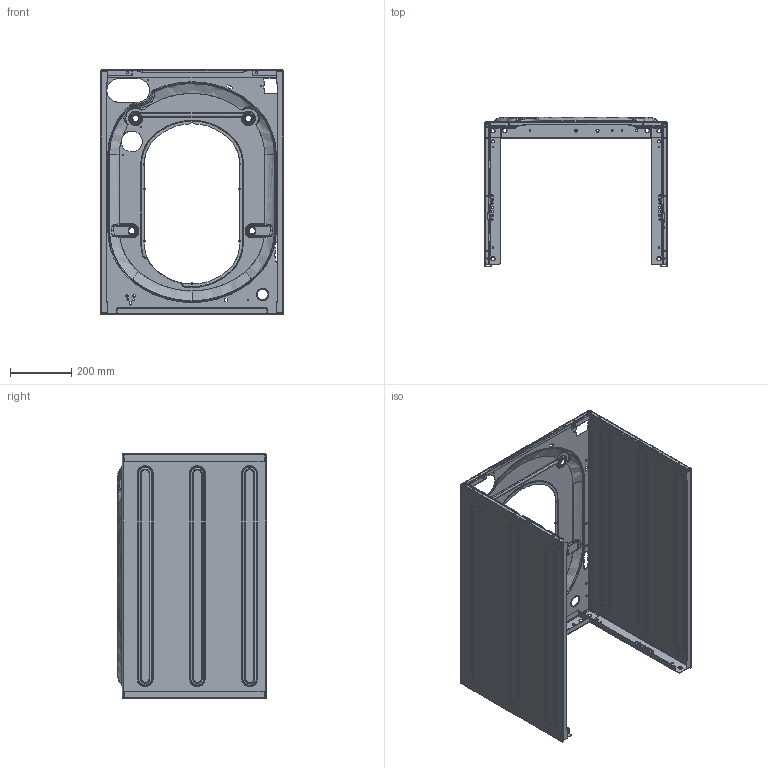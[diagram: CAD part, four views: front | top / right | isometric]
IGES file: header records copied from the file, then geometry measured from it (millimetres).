
Start section: Comment
Global section: file name: 134046020.igs; native system:  By UGS Corp.; preprocessor: XPlus GENERIC/IGES 3.0; author: Author; organization: Title; date: 20080207.153206; units: millimetre
Bounding box: 595 x 485 x 797 mm (x, y, z)
Surface area: 2913725.4 mm2 (no closed solid volume)
Topology: 0 solids, 0 shells, 1800 faces, 9715 edges, 9675 vertices
Faces by surface type: bspline 1800
